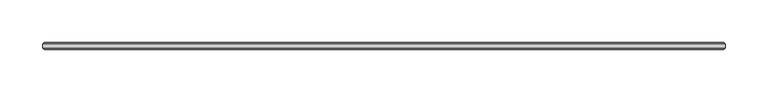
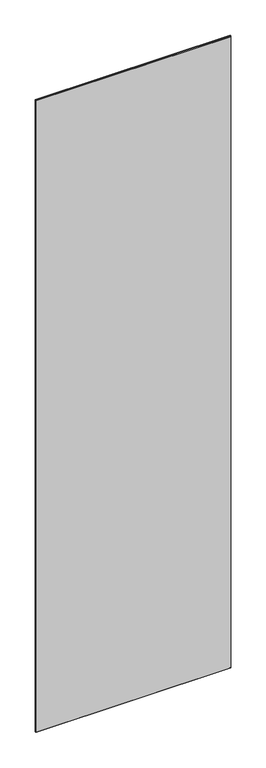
"""IFC4 building model written with IfcOpenShell, lengths in millimetres: plate geometry, 1-AMG-1-Панель одинарный витраж 8, 10 : Смещение 32 Толщина 8mm."""

from ifc_helpers import new_model, si_unit, origin, place, context, project, spatial, faceted_brep, source, transform, mapped, element, save


def plate_586497ee(model_context):
    return source(origin(), model_context, "Body", "Brep", [
        faceted_brep([(397.8511719, 29.5038347, 2722.8), (397.8511719, 34.4961653, 2722.8), (-397.8511719, 34.4961653, 2722.8), (-397.8511719, 29.5038347, 2722.8), (397.8511719, 34.4961653, -7.0), (397.8511719, 29.5038347, -7.0), (-397.8511719, 29.5038347, -7.0), (-397.8511719, 34.4961653, -7.0), (-396.3473372, 36.0, 2721.2961653), (396.3473372, 36.0, 2721.2961653), (396.3473372, 36.0, -5.5039422), (-396.3473372, 36.0, -5.5039422), (396.3473372, 28.0, 2721.2961653), (-396.3473372, 28.0, 2721.2961653), (-396.3473372, 28.0, -5.4961653), (396.3473372, 28.0, -5.4961653)], [[[0, 1, 2, 3]], [[4, 5, 6, 7]], [[8, 9, 10, 11]], [[3, 2, 7, 6]], [[12, 13, 14, 15]], [[1, 0, 5, 4]], [[1, 4, 10, 9]], [[5, 0, 12, 15]], [[7, 2, 8, 11]], [[3, 6, 14, 13]], [[0, 3, 13, 12]], [[2, 1, 9, 8]], [[6, 5, 15, 14]], [[4, 7, 11, 10]]]),
    ])


if __name__ == "__main__":
    model = new_model("IFC4")
    model_context = context("Model", 3, world=origin())
    ifc_project = project(units=[si_unit("LENGTHUNIT", "METRE", prefix="MILLI")], contexts=[model_context])
    site = spatial("IfcSite", under=ifc_project)
    building = spatial("IfcBuilding", under=site)
    placement = place(None, origin())
    plate_shape = plate_586497ee(model_context)
    element("IfcPlate", 1, ObjectType="1-AMG-1-Панель одинарный витраж 8, 10 : Смещение 32 Толщина 8mm", at=placement, inside=building, context=model_context, shape_type="MappedRepresentation", body=[
        mapped(plate_shape, transform((0.0, 0.0, 0.0), x_axis=(1.0, 0.0, 0.0), y_axis=(0.0, 1.0, 0.0), z_axis=(0.0, 0.0, 1.0))),
    ])
    save(model, "model.ifc")
